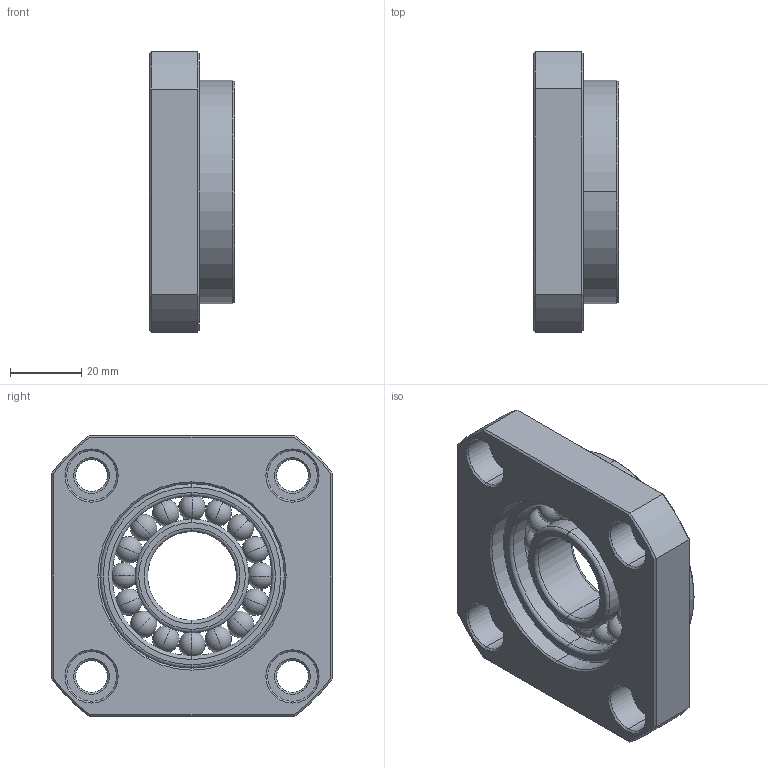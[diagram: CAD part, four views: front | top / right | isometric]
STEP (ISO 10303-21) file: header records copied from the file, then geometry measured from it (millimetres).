
FILE_DESCRIPTION (( 'STEP AP203' ), '1' );
FILE_NAME ('FF25²Õ¦X¥ó.STEP', '2017-12-27T08:48:40', ( '' ), ( '' ), 'SwSTEP 2.0', 'SolidWorks 2017', '' );
FILE_SCHEMA (( 'CONFIG_CONTROL_DESIGN' ));
Length unit declared in the file: millimetre
Products named in the file (1): FF25組合件
Bounding box: 24 x 79 x 79 mm (x, y, z)
Surface area: 28271.8 mm2 (no closed solid volume)
Topology: 0 solids, 19 shells, 149 faces, 362 edges, 224 vertices
Faces by surface type: cone 38, cylinder 34, sphere 32, plane 23, torus 22
Entity records: 3853 total; most frequent: DIRECTION 748, CARTESIAN_POINT 656, ORIENTED_EDGE 560, AXIS2_PLACEMENT_3D 332, EDGE_CURVE 282, CIRCLE 182, VERTEX_POINT 176, EDGE_LOOP 168
